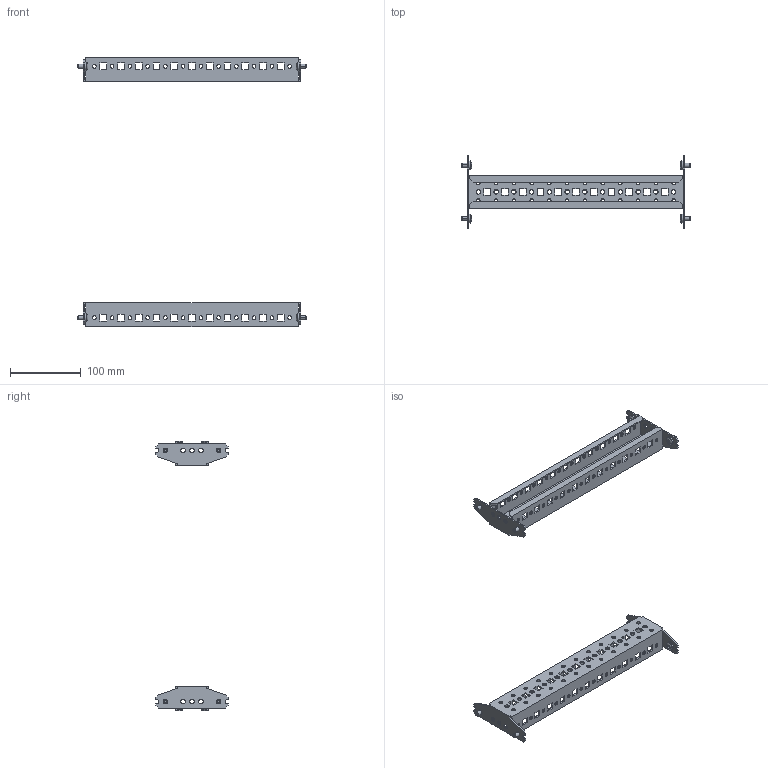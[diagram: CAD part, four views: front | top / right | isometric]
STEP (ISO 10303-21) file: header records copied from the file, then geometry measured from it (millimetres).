
FILE_DESCRIPTION (( 'STEP AP214' ), '1' );
FILE_NAME ('FO-00-VRC-040 Ðåéêà ìîíòàæíàÿ òèïà C 400 ìì (2 øò.óïàê.).STEP', '2025-10-06T12:44:42', ( '' ), ( '' ), 'SwSTEP 2.0', 'SolidWorks 2023', '' );
FILE_SCHEMA (( 'AUTOMOTIVE_DESIGN' ));
Length unit declared in the file: millimetre
Products named in the file (3): FO-00-VRC-040 Рейка монтажная типа C 400 мм (2 шт.упак.); Рейка монтажная типа C 400 мм; Винт М6х10 400 IEK
Assembly tree (6 placements, depth 2):
  FO-00-VRC-040 Рейка монтажная типа C 400 мм (2 шт.упак.)
    Рейка монтажная типа C 400 мм  x2
    Винт М6х10 400 IEK  x4
Bounding box: 322 x 101.5 x 380 mm (x, y, z)
Volume: 156558.9 mm3; surface area: 170667.6 mm2
Topology: 10 solids, 10 shells, 932 faces, 2664 edges, 1760 vertices
Faces by surface type: plane 444, cylinder 440, torus 16, cone 16, sphere 16
Entity records: 14199 total; most frequent: CARTESIAN_POINT 2539, ORIENTED_EDGE 2388, DIRECTION 2348, EDGE_CURVE 1194, LINE 810, VECTOR 810, VERTEX_POINT 792, AXIS2_PLACEMENT_3D 769
